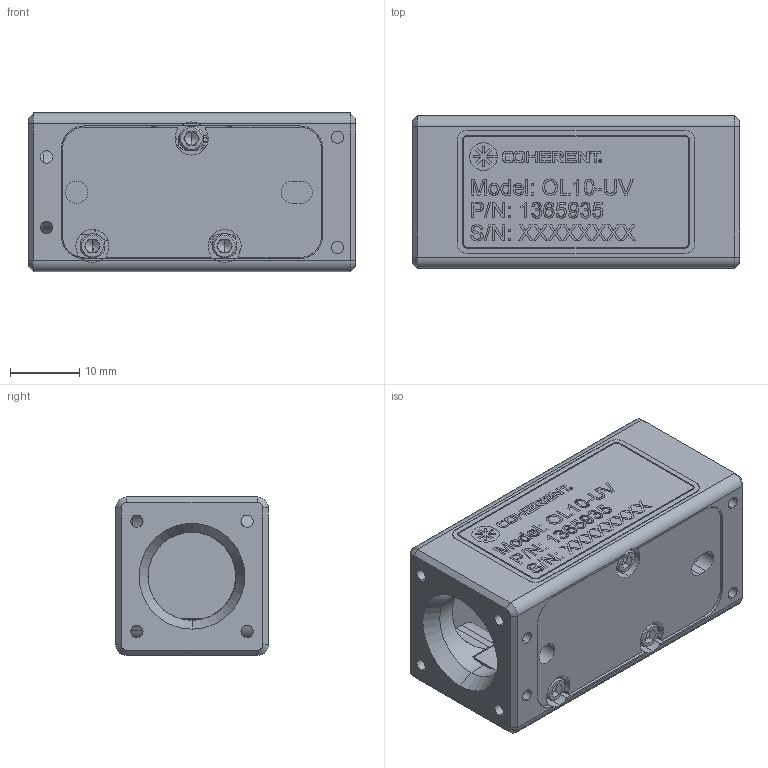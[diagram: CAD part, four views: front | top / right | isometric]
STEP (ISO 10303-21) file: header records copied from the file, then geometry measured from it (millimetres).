
FILE_DESCRIPTION (( 'STEP AP214' ), '1' );
FILE_NAME ('1365935 Objective Lens, OL10-UV 10um Focus, CellX.STEP', '2019-09-25T15:47:32', ( '' ), ( '' ), 'SwSTEP 2.0', 'SolidWorks 2016', '' );
FILE_SCHEMA (( 'AUTOMOTIVE_DESIGN' ));
Length unit declared in the file: inch
Products named in the file (1): 1365935 Objective Lens, OL10-UV 10um Focus, CellX
Bounding box: 47.22 x 21.97 x 22.94 mm (x, y, z)
Surface area: 9706.8 mm2 (no closed solid volume)
Topology: 0 solids, 53 shells, 383 faces, 2465 edges, 2097 vertices
Faces by surface type: plane 235, cylinder 82, bspline 40, cone 26
Entity records: 38585 total; most frequent: CARTESIAN_POINT 17026, ORIENTED_EDGE 3080, DIRECTION 2619, EDGE_CURVE 2459, VERTEX_POINT 2097, VECTOR 1463, LINE 1463, B_SPLINE_CURVE_WITH_KNOTS 736
